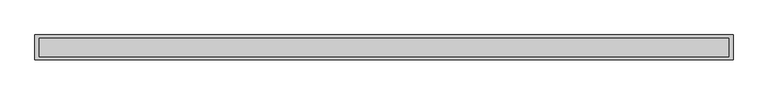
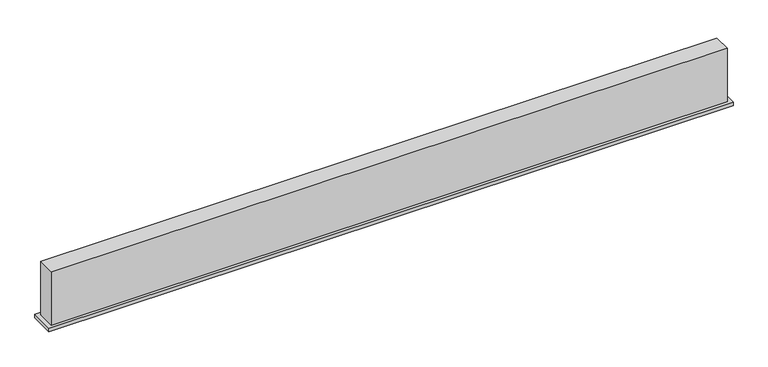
"""IFC4 building model written with IfcOpenShell, lengths in millimetres: air terminal geometry, 033_線状吹出口_BL : BL-S."""

from ifc_helpers import new_model, si_unit, frame, origin, origin_with_axes, place, context, project, spatial, polyline, outline, extrude, source, transform, mapped, element, save


def air_terminal_2fd2877c(model_context):
    return source(origin(), model_context, "Body", "SweptSolid", [
        extrude(outline(polyline([(911.0, -32.5), (-911.0, -32.5), (-911.0, 32.5), (911.0, 32.5), (911.0, -32.5)]), holes=[polyline([(900.0, -24.0), (900.0, 24.0), (-900.0, 24.0), (-900.0, -24.0), (900.0, -24.0)])]), frame((0.0, 0.0, -10.0), z_axis=(0.0, 0.0, 1.0), x_axis=(1.0, 0.0, 0.0)), (0.0, 0.0, 1.0), 10.0),
        extrude(outline(polyline([(900.0, 24.0), (900.0, -24.0), (-900.0, -24.0), (-900.0, 24.0), (900.0, 24.0)])), origin_with_axes(), (0.0, 0.0, 1.0), 150.0),
    ])


if __name__ == "__main__":
    model = new_model("IFC4")
    model_context = context("Model", 3, world=origin())
    ifc_project = project(units=[si_unit("LENGTHUNIT", "METRE", prefix="MILLI")], contexts=[model_context])
    site = spatial("IfcSite", under=ifc_project)
    building = spatial("IfcBuilding", under=site)
    placement = place(None, origin())
    air_terminal_shape = air_terminal_2fd2877c(model_context)
    element("IfcAirTerminal", 1, ObjectType="033_線状吹出口_BL : BL-S", at=placement, inside=building, context=model_context, shape_type="MappedRepresentation", body=[
        mapped(air_terminal_shape, transform((0.0, 0.0, 0.0), x_axis=(1.0, 0.0, 0.0), y_axis=(0.0, 1.0, 0.0), z_axis=(0.0, 0.0, 1.0))),
    ])
    save(model, "model.ifc")
